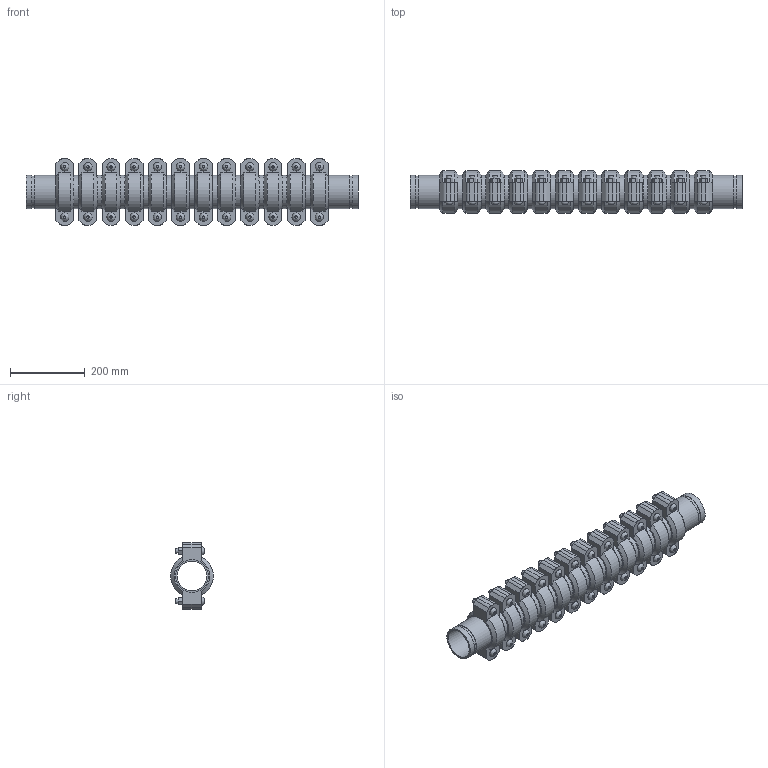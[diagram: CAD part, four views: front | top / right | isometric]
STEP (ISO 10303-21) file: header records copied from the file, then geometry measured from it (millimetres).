
FILE_DESCRIPTION(/* description */ ('VIC EXPANSION JOINT 12 COUPLINGS EXPANDED STYLE 155 (OGS)','CAx-IF Rec.Pracs.---Representation and Presentation of Product Manufacturing Information (PMI)---4.0---2014-10-13'),/* implementation_level */ '2;1');
FILE_NAME(/* name */ 'C:\Users\kkamble\AppData\Roaming\Autodesk\ApplicationPlugins\Victaulic.Temp\A519\Victaulic_IPS_Expansion Joint_Expanded_12 Couplings_Style 155 (OGS)_3 (80).stp',/* time_stamp */ '2021-06-26T23:54:22+02:00',/* author */ ('kkamble'),/* organization */ ('Victaulic'),/* preprocessor_version */ 'ST-DEVELOPER v17.2',/* originating_system */ 'Autodesk Inventor 2019',/* authorisation */ '');
FILE_SCHEMA (('AP242_MANAGED_MODEL_BASED_3D_ENGINEERING_MIM_LF { 1 0 10303 442 1 1 4 }'));
Length unit declared in the file: inch
Products named in the file (4): 155-03.0; Nipple-03.0; Nipple-03.0_1; 075-03.0
Assembly tree (25 placements, depth 2):
  155-03.0
    Nipple-03.0  x2
    Nipple-03.0_1  x11
    075-03.0  x12
Bounding box: 889.25 x 113.88 x 177.8 mm (x, y, z)
Volume: 4989673.2 mm3; surface area: 1250995.5 mm2
Topology: 25 solids, 49 shells, 840 faces, 1986 edges, 1392 vertices
Faces by surface type: plane 510, cylinder 258, cone 48, bspline 24
Full cylindrical faces by diameter (mm): 12.7 x48, 14.605 x24, 79.35 x13, 82.55 x12, 84.938 x26, 88.9 x63
Entity records: 2913 total; most frequent: CARTESIAN_POINT 509, DIRECTION 493, ORIENTED_EDGE 386, AXIS2_PLACEMENT_3D 200, EDGE_CURVE 193, VERTEX_POINT 138, EDGE_LOOP 107, LINE 93
